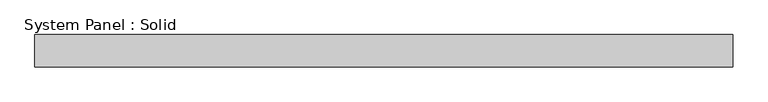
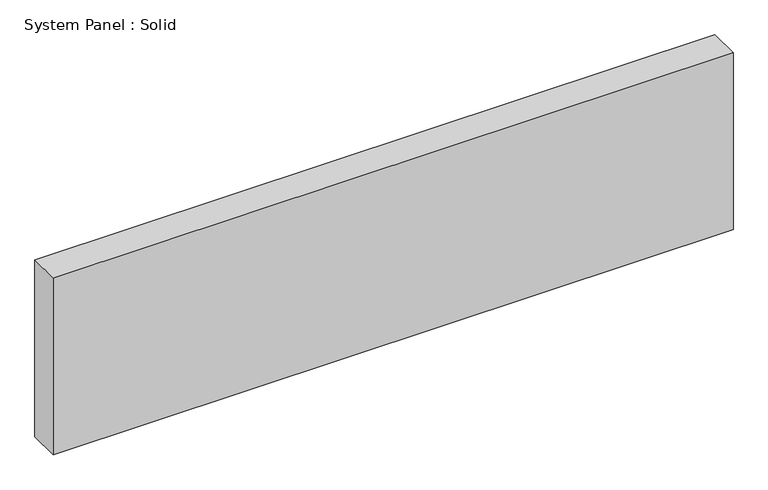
"""IFC4 building model written with IfcOpenShell, lengths in millimetres: plate geometry, System Panel : Solid."""

from ifc_helpers import new_model, si_unit, origin, origin_with_axes, place, context, project, spatial, polyline, outline, extrude, source, transform, mapped, element, save


def system_panel_solid_0d61ca61(model_context):
    return source(origin(), model_context, "Body", "SweptSolid", [
        extrude(outline(polyline([(688.5886914, -19.05), (-688.5886914, -19.05), (-688.5886914, 44.45), (688.5886914, 44.45), (688.5886914, -19.05)])), origin_with_axes(), (0.0, 0.0, 1.0), 379.1388226),
    ])


if __name__ == "__main__":
    model = new_model("IFC4")
    model_context = context("Model", 3, world=origin())
    ifc_project = project(units=[si_unit("LENGTHUNIT", "METRE", prefix="MILLI")], contexts=[model_context])
    site = spatial("IfcSite", under=ifc_project)
    building = spatial("IfcBuilding", under=site)
    placement = place(None, origin())
    system_panel_solid_shape = system_panel_solid_0d61ca61(model_context)
    element("IfcPlate", 1, ObjectType="System Panel : Solid", at=placement, inside=building, context=model_context, shape_type="MappedRepresentation", body=[
        mapped(system_panel_solid_shape, transform((0.0, 0.0, 0.0), x_axis=(1.0, 0.0, 0.0), y_axis=(0.0, 1.0, 0.0), z_axis=(0.0, 0.0, 1.0))),
    ])
    save(model, "model.ifc")
